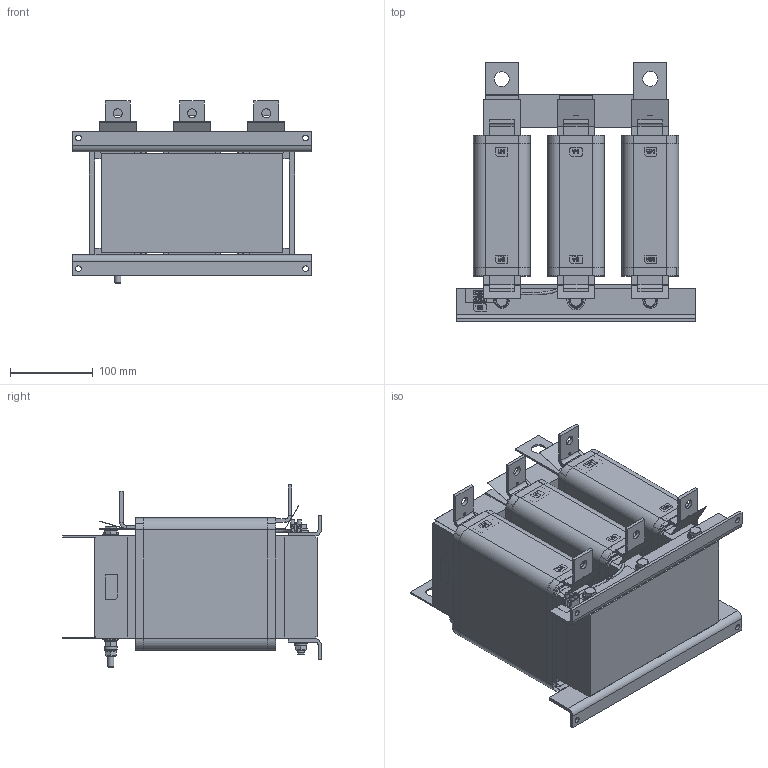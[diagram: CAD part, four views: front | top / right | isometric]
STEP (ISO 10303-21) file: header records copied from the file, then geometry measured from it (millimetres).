
FILE_DESCRIPTION(/* description */ ('raw material description'),/* implementation_level */ '2;1');
FILE_NAME(/* name */ 'C:\Users\Erika.Jenzer\Desktop\Neuer Ordner\FN5060HV-220-99.stp',/* time_stamp */ '2019-11-18T14:54:47+01:00',/* author */ ('erika.jenzer'),/* organization */ ('Schaffner EMV AG'),/* preprocessor_version */ 'ST-DEVELOPER v16.5',/* originating_system */ 'Autodesk Inventor 2017',/* authorisation */ '');
FILE_SCHEMA (('AUTOMOTIVE_DESIGN { 1 0 10303 214 3 1 1 }'));
Products named in the file (1): FN5060HV-220-99
Bounding box: 290 x 313.65 x 220.54 mm (x, y, z)
Volume: 6845290.1 mm3; surface area: 1433774.7 mm2
Topology: 39 solids, 51 shells, 1902 faces, 4948 edges, 3230 vertices
Faces by surface type: plane 1268, cylinder 399, cone 130, bspline 86, torus 18, sphere 1
Full cylindrical faces by diameter (mm): 0.01 x2, 1 x2, 2 x2, 2.5 x1, 2.8 x11, 3 x1, 3.4 x4, 7 x4, 8 x13, 8.2 x6, 8.4 x13, 9.9 x5, 10.5 x3, 11 x16, 11.4 x1, 13 x1, 16 x11, 18 x7, 20 x2
Entity records: 60660 total; most frequent: CARTESIAN_POINT 13113, ORIENTED_EDGE 9472, DIRECTION 9047, EDGE_CURVE 4729, LINE 3339, VECTOR 3339, VERTEX_POINT 3176, AXIS2_PLACEMENT_3D 2854
